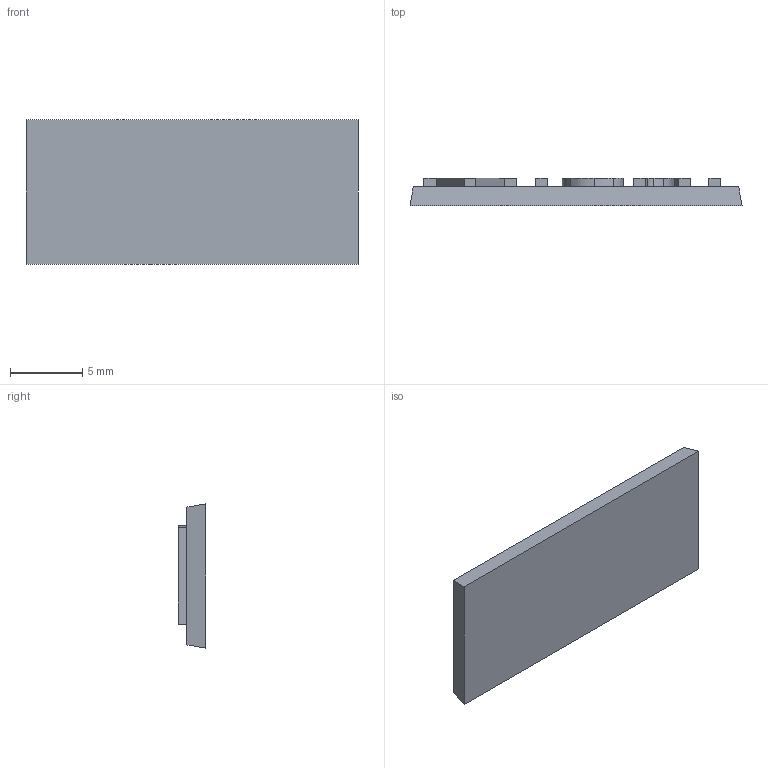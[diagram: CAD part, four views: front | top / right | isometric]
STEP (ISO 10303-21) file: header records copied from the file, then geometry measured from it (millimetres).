
FILE_DESCRIPTION(/* description */ (''),/* implementation_level */ '2;1');
FILE_NAME(/* name */ 'C:/Users/Patrick/Desktop/Namensschild v3.step',/* time_stamp */ '2017-05-28T19:46:58+02:00',/* author */ (''),/* organization */ (''),/* preprocessor_version */ 'ST-DEVELOPER v16.13',/* originating_system */ 'Autodesk Translation Framework v6.1.1.50',/* authorisation */ '');
FILE_SCHEMA (('AUTOMOTIVE_DESIGN { 1 0 10303 214 3 1 1 }'));
Length unit declared in the file: millimetre
Products named in the file (1): Namensschild v3
Bounding box: 23 x 1.9 x 10 mm (x, y, z)
Volume: 319.3 mm3; surface area: 613 mm2
Topology: 1 solids, 1 shells, 80 faces, 213 edges, 142 vertices
Faces by surface type: plane 52, bspline 28
Entity records: 2739 total; most frequent: CARTESIAN_POINT 912, ORIENTED_EDGE 426, DIRECTION 263, EDGE_CURVE 213, LINE 157, VECTOR 157, VERTEX_POINT 142, EDGE_LOOP 87
